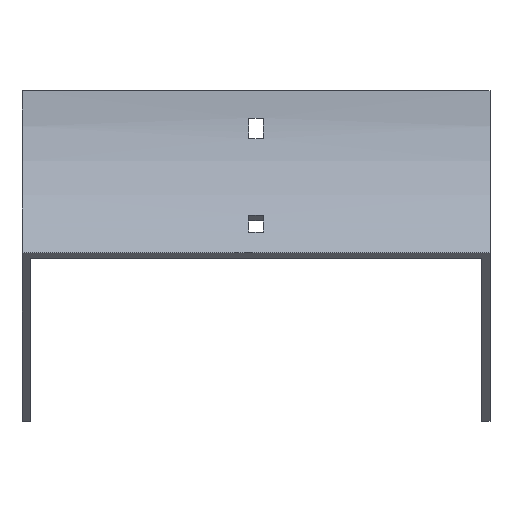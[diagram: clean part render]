
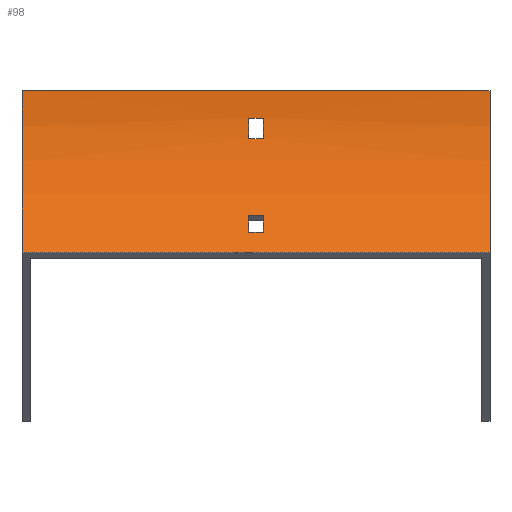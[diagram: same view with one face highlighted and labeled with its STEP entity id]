
A CAD part, front view. The second image highlights one B-rep face of the part: STEP entity #98.
In plain terms, the highlighted cylindrical face has radius 100 mm (diameter 200 mm), a partial arc.
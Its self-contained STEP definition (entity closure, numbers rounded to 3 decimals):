
#21 = CARTESIAN_POINT ( 'NONE',  ( 3.25, -2.23, -21. ) ) ;
#27 = ORIENTED_EDGE ( 'NONE', *, *, #595, .T. ) ;
#45 = ORIENTED_EDGE ( 'NONE', *, *, #680, .F. ) ;
#65 = CARTESIAN_POINT ( 'NONE',  ( 3.25, -0.723, -12. ) ) ;
#69 = VECTOR ( 'NONE', #1210, 1000. ) ;
#91 = AXIS2_PLACEMENT_3D ( 'NONE', #1054, #1318, #886 ) ;
#92 = VECTOR ( 'NONE', #1676, 1000. ) ;
#95 = CARTESIAN_POINT ( 'NONE',  ( 3.25, -16.017, -54.285 ) ) ;
#98 = ADVANCED_FACE ( 'NONE', ( #1353, #1483, #1212 ), #579, .F. ) ;
#136 = VERTEX_POINT ( 'NONE', #21 ) ;
#165 = DIRECTION ( 'NONE',  ( 0., 0., 1. ) ) ;
#185 = CARTESIAN_POINT ( 'NONE',  ( -3.25, -21.315, -61.714 ) ) ;
#211 = CARTESIAN_POINT ( 'NONE',  ( 102., -2.23, -21. ) ) ;
#222 = DIRECTION ( 'NONE',  ( 0., 0., 1. ) ) ;
#271 = EDGE_CURVE ( 'NONE', #1108, #136, #1328, .T. ) ;
#284 = CARTESIAN_POINT ( 'NONE',  ( -3.25, -2.23, -21. ) ) ;
#301 = CARTESIAN_POINT ( 'NONE',  ( -102., -29.289, -70.711 ) ) ;
#309 = CIRCLE ( 'NONE', #536, 100. ) ;
#317 = ORIENTED_EDGE ( 'NONE', *, *, #1085, .F. ) ;
#321 = DIRECTION ( 'NONE',  ( -1., 0., 0. ) ) ;
#337 = LINE ( 'NONE', #211, #92 ) ;
#362 = DIRECTION ( 'NONE',  ( 0., 0., 1. ) ) ;
#374 = ORIENTED_EDGE ( 'NONE', *, *, #1503, .F. ) ;
#376 = EDGE_LOOP ( 'NONE', ( #374, #317, #1170, #45 ) ) ;
#380 = ORIENTED_EDGE ( 'NONE', *, *, #1131, .T. ) ;
#391 = DIRECTION ( 'NONE',  ( -1., 0., 0. ) ) ;
#398 = AXIS2_PLACEMENT_3D ( 'NONE', #1206, #321, #165 ) ;
#437 = DIRECTION ( 'NONE',  ( 0., 0., -1. ) ) ;
#479 = LINE ( 'NONE', #891, #1250 ) ;
#483 = AXIS2_PLACEMENT_3D ( 'NONE', #538, #391, #530 ) ;
#496 = EDGE_CURVE ( 'NONE', #664, #1108, #1026, .T. ) ;
#508 = EDGE_LOOP ( 'NONE', ( #380, #27, #927, #1236 ) ) ;
#530 = DIRECTION ( 'NONE',  ( 0., 0., 1. ) ) ;
#536 = AXIS2_PLACEMENT_3D ( 'NONE', #1016, #874, #362 ) ;
#538 = CARTESIAN_POINT ( 'NONE',  ( -102., -100., 0. ) ) ;
#559 = CIRCLE ( 'NONE', #1223, 100. ) ;
#564 = CARTESIAN_POINT ( 'NONE',  ( -3.25, -16.017, -54.285 ) ) ;
#579 = CYLINDRICAL_SURFACE ( 'NONE', #398, 100. ) ;
#595 = EDGE_CURVE ( 'NONE', #1468, #664, #1004, .T. ) ;
#597 = AXIS2_PLACEMENT_3D ( 'NONE', #1610, #938, #437 ) ;
#627 = DIRECTION ( 'NONE',  ( 1., 0., 0. ) ) ;
#638 = VERTEX_POINT ( 'NONE', #185 ) ;
#644 = CARTESIAN_POINT ( 'NONE',  ( 3.25, -100., 0. ) ) ;
#646 = DIRECTION ( 'NONE',  ( 1., 0., 0. ) ) ;
#653 = VECTOR ( 'NONE', #1247, 1000. ) ;
#664 = VERTEX_POINT ( 'NONE', #1220 ) ;
#671 = ORIENTED_EDGE ( 'NONE', *, *, #1201, .F. ) ;
#680 = EDGE_CURVE ( 'NONE', #638, #1244, #856, .T. ) ;
#696 = DIRECTION ( 'NONE',  ( -1., 0., 0. ) ) ;
#748 = ORIENTED_EDGE ( 'NONE', *, *, #1526, .T. ) ;
#840 = DIRECTION ( 'NONE',  ( -1., 0., 0. ) ) ;
#852 = DIRECTION ( 'NONE',  ( -1., 0., 0. ) ) ;
#856 = LINE ( 'NONE', #1113, #653 ) ;
#872 = ORIENTED_EDGE ( 'NONE', *, *, #1305, .T. ) ;
#874 = DIRECTION ( 'NONE',  ( -1., 0., 0. ) ) ;
#886 = DIRECTION ( 'NONE',  ( 0., 0., 1. ) ) ;
#890 = ORIENTED_EDGE ( 'NONE', *, *, #1165, .F. ) ;
#891 = CARTESIAN_POINT ( 'NONE',  ( 102., -29.289, -70.711 ) ) ;
#919 = CARTESIAN_POINT ( 'NONE',  ( -102., 0., 0. ) ) ;
#927 = ORIENTED_EDGE ( 'NONE', *, *, #496, .T. ) ;
#938 = DIRECTION ( 'NONE',  ( -1., 0., 0. ) ) ;
#966 = VERTEX_POINT ( 'NONE', #919 ) ;
#967 = CARTESIAN_POINT ( 'NONE',  ( 102., -29.289, -70.711 ) ) ;
#1004 = CIRCLE ( 'NONE', #91, 100. ) ;
#1016 = CARTESIAN_POINT ( 'NONE',  ( 102., -100., 0. ) ) ;
#1026 = LINE ( 'NONE', #1689, #1655 ) ;
#1029 = VERTEX_POINT ( 'NONE', #967 ) ;
#1054 = CARTESIAN_POINT ( 'NONE',  ( -3.25, -100., 0. ) ) ;
#1073 = LINE ( 'NONE', #1335, #1458 ) ;
#1079 = CARTESIAN_POINT ( 'NONE',  ( -3.25, -100., 0. ) ) ;
#1085 = EDGE_CURVE ( 'NONE', #1186, #1471, #1235, .T. ) ;
#1108 = VERTEX_POINT ( 'NONE', #65 ) ;
#1113 = CARTESIAN_POINT ( 'NONE',  ( 102., -21.315, -61.714 ) ) ;
#1129 = EDGE_LOOP ( 'NONE', ( #872, #890, #671, #748 ) ) ;
#1131 = EDGE_CURVE ( 'NONE', #136, #1468, #337, .T. ) ;
#1165 = EDGE_CURVE ( 'NONE', #1029, #1433, #479, .T. ) ;
#1170 = ORIENTED_EDGE ( 'NONE', *, *, #1209, .F. ) ;
#1186 = VERTEX_POINT ( 'NONE', #95 ) ;
#1200 = AXIS2_PLACEMENT_3D ( 'NONE', #644, #627, #222 ) ;
#1201 = EDGE_CURVE ( 'NONE', #1659, #1029, #309, .T. ) ;
#1206 = CARTESIAN_POINT ( 'NONE',  ( 102., -100., 0. ) ) ;
#1209 = EDGE_CURVE ( 'NONE', #1244, #1186, #1486, .T. ) ;
#1210 = DIRECTION ( 'NONE',  ( -1., 0., 0. ) ) ;
#1212 = FACE_BOUND ( 'NONE', #376, .T. ) ;
#1220 = CARTESIAN_POINT ( 'NONE',  ( -3.25, -0.723, -12. ) ) ;
#1222 = CIRCLE ( 'NONE', #483, 100. ) ;
#1223 = AXIS2_PLACEMENT_3D ( 'NONE', #1079, #840, #1588 ) ;
#1235 = LINE ( 'NONE', #1470, #69 ) ;
#1236 = ORIENTED_EDGE ( 'NONE', *, *, #271, .T. ) ;
#1244 = VERTEX_POINT ( 'NONE', #1667 ) ;
#1247 = DIRECTION ( 'NONE',  ( 1., 0., 0. ) ) ;
#1250 = VECTOR ( 'NONE', #852, 1000. ) ;
#1305 = EDGE_CURVE ( 'NONE', #966, #1433, #1222, .T. ) ;
#1318 = DIRECTION ( 'NONE',  ( 1., 0., 0. ) ) ;
#1328 = CIRCLE ( 'NONE', #597, 100. ) ;
#1335 = CARTESIAN_POINT ( 'NONE',  ( 102., 0., 0. ) ) ;
#1353 = FACE_OUTER_BOUND ( 'NONE', #1129, .T. ) ;
#1433 = VERTEX_POINT ( 'NONE', #301 ) ;
#1458 = VECTOR ( 'NONE', #696, 1000. ) ;
#1468 = VERTEX_POINT ( 'NONE', #284 ) ;
#1470 = CARTESIAN_POINT ( 'NONE',  ( 102., -16.017, -54.285 ) ) ;
#1471 = VERTEX_POINT ( 'NONE', #564 ) ;
#1483 = FACE_BOUND ( 'NONE', #508, .T. ) ;
#1486 = CIRCLE ( 'NONE', #1200, 100. ) ;
#1503 = EDGE_CURVE ( 'NONE', #1471, #638, #559, .T. ) ;
#1519 = CARTESIAN_POINT ( 'NONE',  ( 102., 0., 0. ) ) ;
#1526 = EDGE_CURVE ( 'NONE', #1659, #966, #1073, .T. ) ;
#1588 = DIRECTION ( 'NONE',  ( 0., 0., -1. ) ) ;
#1610 = CARTESIAN_POINT ( 'NONE',  ( 3.25, -100., 0. ) ) ;
#1655 = VECTOR ( 'NONE', #646, 1000. ) ;
#1659 = VERTEX_POINT ( 'NONE', #1519 ) ;
#1667 = CARTESIAN_POINT ( 'NONE',  ( 3.25, -21.315, -61.714 ) ) ;
#1676 = DIRECTION ( 'NONE',  ( -1., 0., 0. ) ) ;
#1689 = CARTESIAN_POINT ( 'NONE',  ( 102., -0.723, -12. ) ) ;
